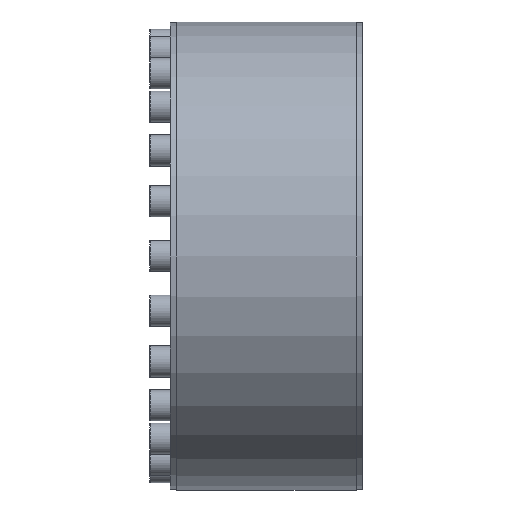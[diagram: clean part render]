
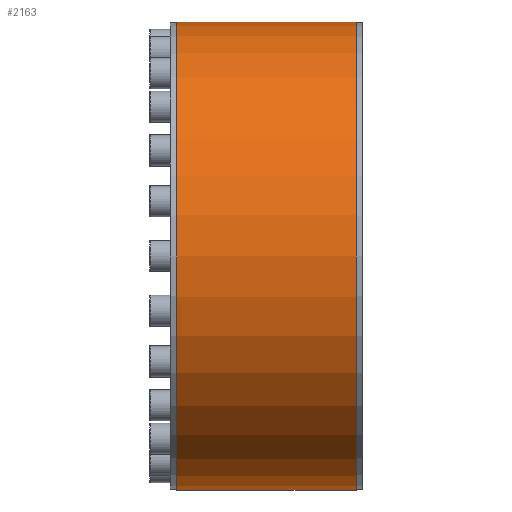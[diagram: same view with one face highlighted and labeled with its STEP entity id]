
A CAD part, left-side view. The second image highlights one B-rep face of the part: STEP entity #2163.
In plain terms, the highlighted cylindrical face has radius 247.5 mm (diameter 495 mm), a partial arc.
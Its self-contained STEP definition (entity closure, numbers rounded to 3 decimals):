
#11 = VECTOR ( 'NONE', #3326, 1000. ) ;
#475 = CARTESIAN_POINT ( 'NONE',  ( 0., 0., 247.5 ) ) ;
#571 = EDGE_CURVE ( 'NONE', #1421, #4178, #6149, .T. ) ;
#740 = VERTEX_POINT ( 'NONE', #6903 ) ;
#1066 = CARTESIAN_POINT ( 'NONE',  ( 0., 95., -247.5 ) ) ;
#1129 = DIRECTION ( 'NONE',  ( 0., -1., 0. ) ) ;
#1411 = AXIS2_PLACEMENT_3D ( 'NONE', #7731, #1129, #3247 ) ;
#1421 = VERTEX_POINT ( 'NONE', #7707 ) ;
#1646 = CARTESIAN_POINT ( 'NONE',  ( 0., 95., 0. ) ) ;
#1721 = ORIENTED_EDGE ( 'NONE', *, *, #7426, .T. ) ;
#2163 = ADVANCED_FACE ( 'NONE', ( #2383 ), #6116, .T. ) ;
#2383 = FACE_OUTER_BOUND ( 'NONE', #5104, .T. ) ;
#2889 = LINE ( 'NONE', #6692, #11 ) ;
#3052 = ORIENTED_EDGE ( 'NONE', *, *, #7798, .F. ) ;
#3064 = AXIS2_PLACEMENT_3D ( 'NONE', #1646, #4249, #4822 ) ;
#3247 = DIRECTION ( 'NONE',  ( 0., 0., -1. ) ) ;
#3326 = DIRECTION ( 'NONE',  ( 0., -1., 0. ) ) ;
#3719 = ORIENTED_EDGE ( 'NONE', *, *, #571, .F. ) ;
#4178 = VERTEX_POINT ( 'NONE', #5397 ) ;
#4249 = DIRECTION ( 'NONE',  ( 0., -1., 0. ) ) ;
#4822 = DIRECTION ( 'NONE',  ( 0., 0., -1. ) ) ;
#4910 = EDGE_CURVE ( 'NONE', #740, #8219, #7430, .T. ) ;
#5104 = EDGE_LOOP ( 'NONE', ( #3052, #6289, #1721, #3719 ) ) ;
#5397 = CARTESIAN_POINT ( 'NONE',  ( 0., -95., -247.5 ) ) ;
#5970 = CARTESIAN_POINT ( 'NONE',  ( 0., -95., 0. ) ) ;
#6116 = CYLINDRICAL_SURFACE ( 'NONE', #1411, 247.5 ) ;
#6149 = CIRCLE ( 'NONE', #6577, 247.5 ) ;
#6289 = ORIENTED_EDGE ( 'NONE', *, *, #4910, .T. ) ;
#6577 = AXIS2_PLACEMENT_3D ( 'NONE', #5970, #6661, #8453 ) ;
#6661 = DIRECTION ( 'NONE',  ( 0., -1., 0. ) ) ;
#6692 = CARTESIAN_POINT ( 'NONE',  ( 0., 0., -247.5 ) ) ;
#6903 = CARTESIAN_POINT ( 'NONE',  ( 0., 95., 247.5 ) ) ;
#7426 = EDGE_CURVE ( 'NONE', #8219, #4178, #2889, .T. ) ;
#7430 = CIRCLE ( 'NONE', #3064, 247.5 ) ;
#7450 = VECTOR ( 'NONE', #8418, 1000. ) ;
#7654 = LINE ( 'NONE', #475, #7450 ) ;
#7707 = CARTESIAN_POINT ( 'NONE',  ( 0., -95., 247.5 ) ) ;
#7731 = CARTESIAN_POINT ( 'NONE',  ( 0., 0., 0. ) ) ;
#7798 = EDGE_CURVE ( 'NONE', #740, #1421, #7654, .T. ) ;
#8219 = VERTEX_POINT ( 'NONE', #1066 ) ;
#8418 = DIRECTION ( 'NONE',  ( 0., -1., 0. ) ) ;
#8453 = DIRECTION ( 'NONE',  ( 0., 0., -1. ) ) ;
